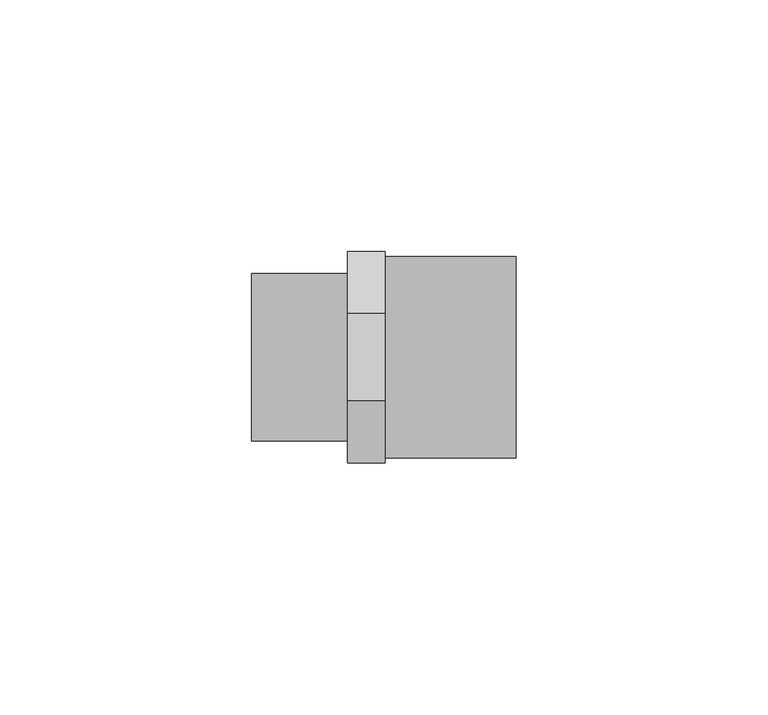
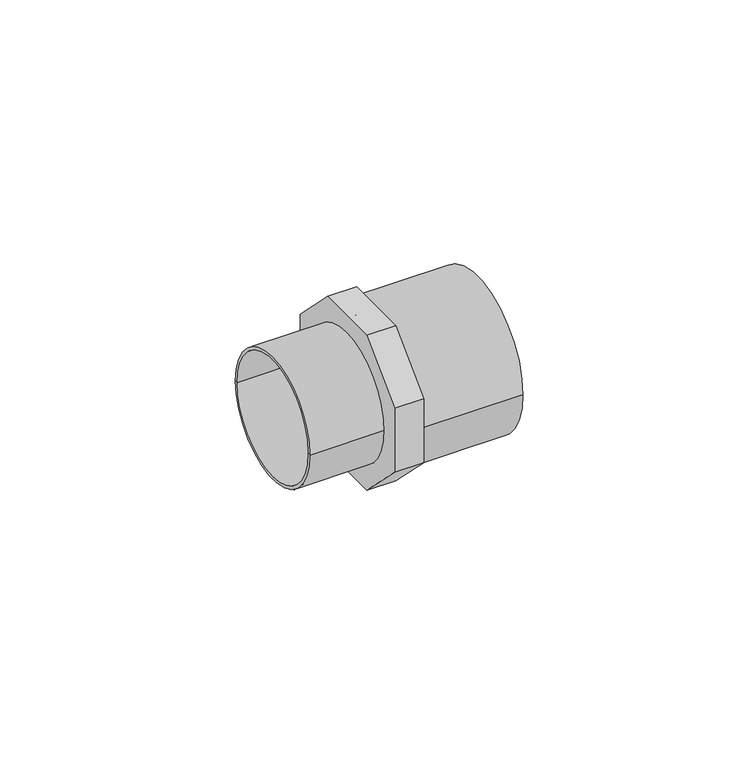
"""IFC4 building model written with IfcOpenShell, lengths in millimetres: pipe fitting geometry, Durapipe_PipeFitting_PVC_MaleThreadedAdaptors : 40 x 32 x G1."""

from ifc_helpers import new_model, si_unit, point, frame, origin, origin_2d, place, context, project, spatial, polyline, circle_curve, trimmed, segment, composite_curve, outline, extrude, source, transform, mapped, element, save
from ifc_brep_helpers import plane_surface, cylinder_surface, revolved_surface, advanced_brep


def pipe_fitting_6127370f(model_context):
    return source(origin(), model_context, "Body", "SolidModel", [
        extrude(outline(polyline([(21.0, 8.6984848), (21.0, -8.6984848), (8.6984848, -21.0), (-8.6984848, -21.0), (-21.0, -8.6984848), (-21.0, 8.6984848), (-8.6984848, 21.0), (8.6984848, 21.0), (21.0, 8.6984848)]), holes=[composite_curve([segment(trimmed(circle_curve(origin_2d(), 15.8), [point((15.8, 0.0))], [point((-15.8, 0.0))], True, "CARTESIAN"), True, "CONTINUOUS"), segment(trimmed(circle_curve(origin_2d(), 15.8), [point((-15.8, 0.0))], [point((15.8, 0.0))], True, "CARTESIAN"), True, "CONTINUOUS")], self_intersect=False)]), frame((-7.4, 0.0, 0.0), z_axis=(1.0, 0.0, 0.0), x_axis=(0.0, 1.0, 0.0)), (0.0, 0.0, 1.0), 7.4),
        advanced_brep(
        [(0.0, -20.0, 0.0), (0.0, 20.0, 0.0), (26.0, 20.0, 0.0), (26.0, -20.0, 0.0), (26.0, 16.0, 0.0), (26.0, -16.0, 0.0), (0.0, 0.0, 0.0), (4.0, 16.0, 0.0), (4.0, -16.0, 0.0), (4.0, 0.0, 0.0)],
        [
            (0, 1, circle_curve(frame((0.0, 0.0, 0.0), z_axis=(1.0, 0.0, 0.0), x_axis=(0.0, 1.0, 0.0)), 20.0)),
            (1, 2),
            (2, 3, circle_curve(frame((26.0, 0.0, 0.0), z_axis=(-1.0, 0.0, 0.0), x_axis=(0.0, 1.0, 0.0)), 20.0)),
            (3, 0),
            (1, 0, circle_curve(frame((0.0, 0.0, 0.0), z_axis=(1.0, 0.0, 0.0), x_axis=(0.0, 1.0, 0.0)), 20.0)),
            (3, 2, circle_curve(frame((26.0, 0.0, 0.0), z_axis=(-1.0, 0.0, 0.0), x_axis=(0.0, 1.0, 0.0)), 20.0)),
            (2, 4),
            (4, 5, circle_curve(frame((26.0, 0.0, 0.0), z_axis=(-1.0, 0.0, 0.0), x_axis=(0.0, 1.0, 0.0)), 16.0)),
            (5, 3),
            (5, 4, circle_curve(frame((26.0, 0.0, 0.0), z_axis=(-1.0, 0.0, 0.0), x_axis=(0.0, 1.0, 0.0)), 16.0)),
            (0, 6),
            (6, 1),
            (7, 8, circle_curve(frame((4.0, 0.0, 0.0), z_axis=(-1.0, 0.0, 0.0), x_axis=(0.0, 1.0, 0.0)), 16.0)),
            (8, 5),
            (4, 7),
            (8, 7, circle_curve(frame((4.0, 0.0, 0.0), z_axis=(-1.0, 0.0, 0.0), x_axis=(0.0, 1.0, 0.0)), 16.0)),
            (7, 9),
            (9, 8),
        ],
        [
            cylinder_surface(frame((427.4572068, 0.0, 0.0), z_axis=(-1.0, 0.0, 0.0), x_axis=(0.0, 1.0, 0.0)), 20.0),
            plane_surface(frame((26.0, 0.0, 0.0), z_axis=(1.0, 0.0, 0.0), x_axis=(0.0, 1.0, 0.0))),
            plane_surface(frame((0.0, 0.0, 0.0), z_axis=(-1.0, 0.0, 0.0), x_axis=(0.0, 1.0, 0.0))),
            revolved_surface(polyline([(4.0, 16.0, 0.0), (26.0, 16.0, 0.0)]), (39.5575137, 0.0, 0.0), (-1.0, 0.0, 0.0)),
            plane_surface(frame((4.0, 0.0, 0.0), z_axis=(1.0, 0.0, 0.0), x_axis=(0.0, 1.0, 0.0))),
        ],
        [
            (0, [[1, 2, 3, 4]]),
            (0, [[-2, 5, -4, 6]]),
            (1, [[-3, 7, 8, 9]]),
            (1, [[-6, -9, 10, -7]]),
            (2, [[-1, 11, 12]]),
            (2, [[-5, -12, -11]]),
            (3, [[13, 14, -8, 15]]),
            (3, [[16, -15, -10, -14]]),
            (4, [[-13, 17, 18]]),
            (4, [[-16, -18, -17]]),
        ],
    ),
        advanced_brep(
        [(-7.4, -15.8, 0.0), (-7.4, 15.8, 0.0), (-26.5, 15.8, 0.0), (-26.5, -15.8, 0.0), (-7.4, -16.6, 0.0), (-7.4, 16.6, 0.0), (-26.5, -16.6, 0.0), (-26.5, 16.6, 0.0)],
        [
            (0, 1, circle_curve(frame((-7.4, 0.0, 0.0), z_axis=(1.0, 0.0, 0.0), x_axis=(0.0, 1.0, 0.0)), 15.8)),
            (1, 2),
            (2, 3, circle_curve(frame((-26.5, 0.0, 0.0), z_axis=(-1.0, 0.0, 0.0), x_axis=(0.0, 1.0, 0.0)), 15.8)),
            (3, 0),
            (1, 0, circle_curve(frame((-7.4, 0.0, 0.0), z_axis=(1.0, 0.0, 0.0), x_axis=(0.0, 1.0, 0.0)), 15.8)),
            (3, 2, circle_curve(frame((-26.5, 0.0, 0.0), z_axis=(-1.0, 0.0, 0.0), x_axis=(0.0, 1.0, 0.0)), 15.8)),
            (4, 5, circle_curve(frame((-7.4, 0.0, 0.0), z_axis=(1.0, 0.0, 0.0), x_axis=(0.0, 1.0, 0.0)), 16.6)),
            (5, 1),
            (0, 4),
            (5, 4, circle_curve(frame((-7.4, 0.0, 0.0), z_axis=(1.0, 0.0, 0.0), x_axis=(0.0, 1.0, 0.0)), 16.6)),
            (6, 7, circle_curve(frame((-26.5, 0.0, 0.0), z_axis=(1.0, 0.0, 0.0), x_axis=(0.0, 1.0, 0.0)), 16.6)),
            (7, 5),
            (4, 6),
            (7, 6, circle_curve(frame((-26.5, 0.0, 0.0), z_axis=(1.0, 0.0, 0.0), x_axis=(0.0, 1.0, 0.0)), 16.6)),
            (2, 7),
            (6, 3),
        ],
        [
            revolved_surface(polyline([(-26.5, 15.8, 0.0), (-7.399999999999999, 15.8, 0.0)]), (-41.5, 0.0, 0.0), (-1.0, 0.0, 0.0)),
            plane_surface(frame((-7.4, 0.0, 0.0), z_axis=(1.0, 0.0, 0.0), x_axis=(0.0, 1.0, 0.0))),
            cylinder_surface(frame((-41.5, 0.0, 0.0), z_axis=(-1.0, 0.0, 0.0), x_axis=(0.0, 1.0, 0.0)), 16.6),
            plane_surface(frame((-26.5, 0.0, 0.0), z_axis=(-1.0, 0.0, 0.0), x_axis=(0.0, 1.0, 0.0))),
        ],
        [
            (0, [[1, 2, 3, 4]]),
            (0, [[5, -4, 6, -2]]),
            (1, [[7, 8, -1, 9]]),
            (1, [[10, -9, -5, -8]]),
            (2, [[11, 12, -7, 13]]),
            (2, [[14, -13, -10, -12]]),
            (3, [[-3, 15, -11, 16]]),
            (3, [[-6, -16, -14, -15]]),
        ],
    ),
    ])


if __name__ == "__main__":
    model = new_model("IFC4")
    model_context = context("Model", 3, world=origin())
    ifc_project = project(units=[si_unit("LENGTHUNIT", "METRE", prefix="MILLI")], contexts=[model_context])
    site = spatial("IfcSite", under=ifc_project)
    building = spatial("IfcBuilding", under=site)
    placement = place(None, origin())
    pipe_fitting_shape = pipe_fitting_6127370f(model_context)
    element("IfcPipeFitting", 1, ObjectType="Durapipe_PipeFitting_PVC_MaleThreadedAdaptors : 40 x 32 x G1", at=placement, inside=building, context=model_context, shape_type="MappedRepresentation", body=[
        mapped(pipe_fitting_shape, transform((0.0, 0.0, 0.0), x_axis=(1.0, 0.0, 0.0), y_axis=(0.0, 1.0, 0.0), z_axis=(0.0, 0.0, 1.0))),
    ])
    save(model, "model.ifc")
